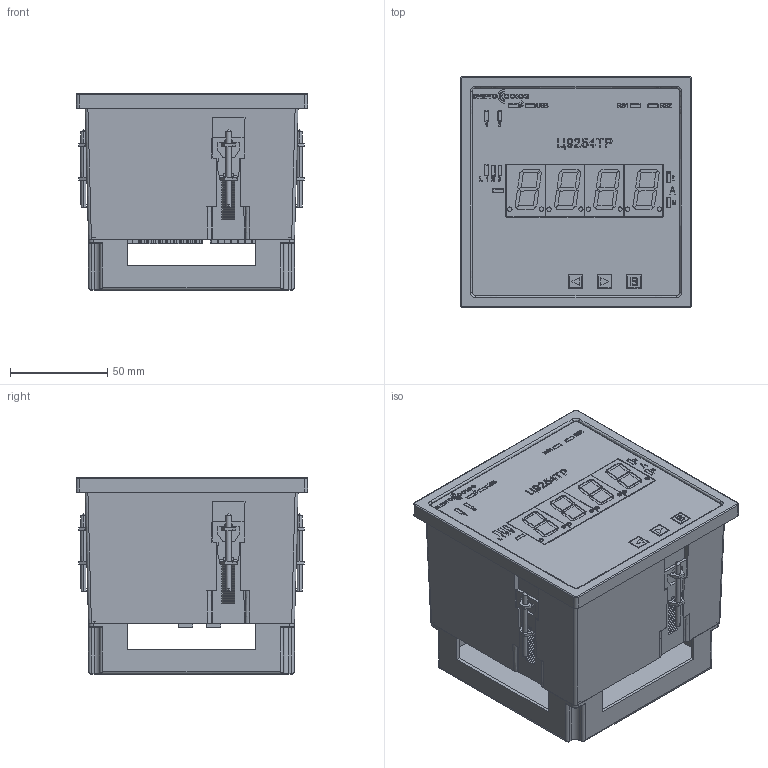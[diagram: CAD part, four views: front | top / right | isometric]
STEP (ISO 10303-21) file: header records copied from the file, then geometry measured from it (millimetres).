
FILE_DESCRIPTION (( 'STEP AP214' ), '1' );
FILE_NAME ('ñ9254tr_1c_120x120x103.STEP', '2025-01-17T06:34:59', ( '' ), ( '' ), 'SwSTEP 2.0', 'SolidWorks 2021', '' );
FILE_SCHEMA (( 'AUTOMOTIVE_DESIGN' ));
Length unit declared in the file: millimetre
Products named in the file (43): Êîïèÿ Êîïèÿ Êîïèÿ ïåðåäíÿÿ_ïàíåëü^ñ9254tr_1c_step; green-led-5_step; RS-485-label^ñ9254tr_1c_step; blue-led-5_step; 15EDGRC-3.5-01P; Êîïèÿ 15EDGRC-3.5-01P^Êîïèÿ 15EDGRC-3.5-06P_ñ9254tr_1c; Êîïèÿ (6) Êîïèÿ indicator-FYS-8011^ñ9254tr_1c_step; Ñêîáà ÖÔ9285; 櫻蠉錪6^DG271R-5.0-2-x; indicator-FYS-8011; 15EDGRC-3.5-04P; body_elc_120x120x103_step; 3-input-label^ñ9254tr_1c_step; 15EDGRC-3.5-06P; Êîïèÿ no-color-led-5^ñ9254tr_1c; DG271R-body; Êîïèÿ 15EDGVC-3.5-sidewall^15EDGRC-3.5-04P; indicator-FYS-8011_step; no-color-led-5; border_for_body_elc_120x120x103; 櫻蠉錪2^DG271R-5.0-2-x; Êîïèÿ (5) Êîïèÿ indicator-FYS-8011^ñ9254tr_1c_step; DG271R-5.0-2-x; Êîïèÿ Ñáîðêà ñêîáà ÖÔ9285^ñ9254tr_1c_step; Êîïèÿ (7) Êîïèÿ indicator-FYS-8011^ñ9254tr_1c_step; ñ9254tr_1c_120x120x103; ñêîáà-2; Êîïèÿ 15EDGVC-3.5-sidewall^Êîïèÿ 15EDGRC-3.5-06P_ñ9254tr_1c; Êîïèÿ mark-FYS-8011^Êîïèÿ (7) Êîïèÿ indicator-FYS-8011_ñ9254tr_1c_step; Êîïèÿ (8) Êîïèÿ indicator-FYS-8011^ñ9254tr_1c_step; Êîïèÿ mark-FYS-8011^Êîïèÿ (5) Êîïèÿ indicator-FYS-8011_ñ9254tr_1c_step; Âèíò äëÿ ñêîáû ÖÔ9285_step; ñêîáà-1; 櫻蠉錪5^DG271R-5.0-2-x; Êîïèÿ 15EDGRC-3.5-01P^15EDGRC-3.5-04P; Êîïèÿ mark-FYS-8011^Êîïèÿ (6) Êîïèÿ indicator-FYS-8011_ñ9254tr_1c_step; 15EDGVC-3.5-sidewall; red-led-with-border_step; Êîïèÿ mark-FYS-8011^Êîïèÿ (8) Êîïèÿ indicator-FYS-8011_ñ9254tr_1c_step; User Library-Micro USB_typeB_10118192-0001LF FCI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
Assembly tree (74 placements, depth 3):
  櫻蠉錪6^DG271R-5.0-2-x
  ñ9254tr_1c_120x120x103
    body_elc_120x120x103_step
    Êîïèÿ Êîïèÿ Êîïèÿ ïåðåäíÿÿ_ïàíåëü^ñ9254tr_1c_step
    border_for_body_elc_120x120x103
    Êîïèÿ Ñáîðêà ñêîáà ÖÔ9285^ñ9254tr_1c_step  x4
      Ñêîáà ÖÔ9285
      Âèíò äëÿ ñêîáû ÖÔ9285_step
    Çàäíÿÿ êðûøêà ÖÔ9285
    Êîïèÿ no-color-led-5^ñ9254tr_1c  x3
    red-led-with-border_step
    blue-led-5_step
    green-led-5_step  x3
    no-color-led-5  x4
    Êîïèÿ (5) Êîïèÿ indicator-FYS-8011^ñ9254tr_1c_step
      indicator-FYS-8011
    Êîïèÿ (6) Êîïèÿ indicator-FYS-8011^ñ9254tr_1c_step
      indicator-FYS-8011
    Êîïèÿ (7) Êîïèÿ indicator-FYS-8011^ñ9254tr_1c_step
      indicator-FYS-8011_step
    Êîïèÿ (8) Êîïèÿ indicator-FYS-8011^ñ9254tr_1c_step
      indicator-FYS-8011_step
    15EDGRC-3.5-04P  x2
      Êîïèÿ 15EDGRC-3.5-01P^15EDGRC-3.5-04P
      Êîïèÿ 15EDGVC-3.5-sidewall^15EDGRC-3.5-04P
    Êîïèÿ 15EDGRC-3.5-06P^ñ9254tr_1c  x2
      Êîïèÿ 15EDGRC-3.5-01P^Êîïèÿ 15EDGRC-3.5-06P_ñ9254tr_1c
      Êîïèÿ 15EDGVC-3.5-sidewall^Êîïèÿ 15EDGRC-3.5-06P_ñ9254tr_1c
    15EDGRC-3.5-06P
      15EDGRC-3.5-01P  x6
      15EDGVC-3.5-sidewall  x2
    DG271R-5.0-2-x  x2
      DG271R-body
      ñêîáà-1
      ñêîáà-2
      櫻蠉錪5^DG271R-5.0-2-x
      櫻蠉錪2^DG271R-5.0-2-x
    RS-485-label^ñ9254tr_1c_step
    3-input-label^ñ9254tr_1c_step
    main-upper-label^ñ9254tr_1c_step
    User Library-Micro USB_typeB_10118192-0001LF FCI
  Êîïèÿ mark-FYS-8011^Êîïèÿ (7) Êîïèÿ indicator-FYS-8011_ñ9254tr_1c_step
  Êîïèÿ mark-FYS-8011^Êîïèÿ (5) Êîïèÿ indicator-FYS-8011_ñ9254tr_1c_step
  Êîïèÿ mark-FYS-8011^Êîïèÿ (6) Êîïèÿ indicator-FYS-8011_ñ9254tr_1c_step
Bounding box: 119 x 119 x 101.11 mm (x, y, z)
Volume: 164113.6 mm3; surface area: 213812.4 mm2
Topology: 243 solids, 243 shells, 7712 faces, 19720 edges, 12736 vertices
Faces by surface type: plane 5209, cylinder 1423, bspline 880, cone 144, sphere 44, torus 12
Entity records: 211294 total; most frequent: CARTESIAN_POINT 78944, ORIENTED_EDGE 24382, DIRECTION 18315, EDGE_CURVE 12191, VECTOR 8289, LINE 8289, VERTEX_POINT 7974, EDGE_LOOP 5099
